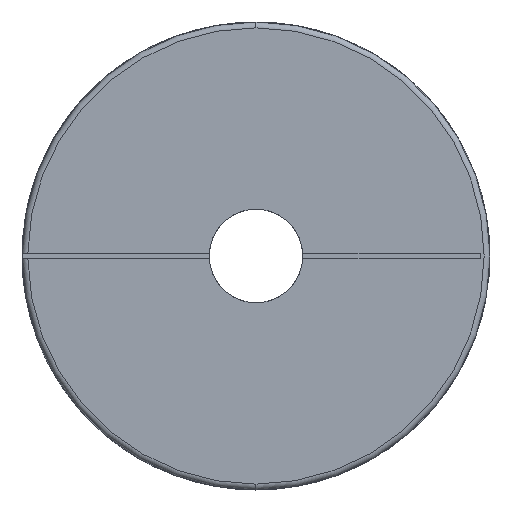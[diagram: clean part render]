
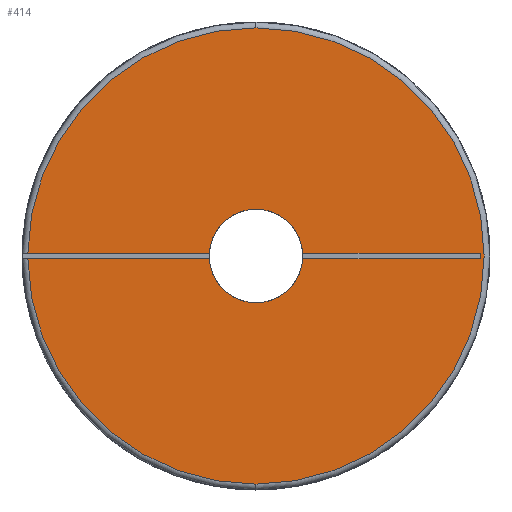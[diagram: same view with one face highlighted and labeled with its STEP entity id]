
A CAD part, left-side view. The second image highlights one B-rep face of the part: STEP entity #414.
In plain terms, the highlighted planar face has unit normal (-1, 0, 0).
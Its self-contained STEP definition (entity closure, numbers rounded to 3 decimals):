
#204 = EDGE_CURVE ( 'NONE', #260, #248, #920, .T. ) ;
#248 = VERTEX_POINT ( 'NONE', #956 ) ;
#260 = VERTEX_POINT ( 'NONE', #998 ) ;
#290 = ORIENTED_EDGE ( 'NONE', *, *, #293, .F. ) ;
#291 = VERTEX_POINT ( 'NONE', #1071 ) ;
#292 = EDGE_CURVE ( 'NONE', #291, #298, #1070, .T. ) ;
#293 = EDGE_CURVE ( 'NONE', #364, #291, #1066, .T. ) ;
#294 = ORIENTED_EDGE ( 'NONE', *, *, #363, .F. ) ;
#295 = ORIENTED_EDGE ( 'NONE', *, *, #448, .F. ) ;
#296 = ORIENTED_EDGE ( 'NONE', *, *, #292, .F. ) ;
#297 = EDGE_CURVE ( 'NONE', #298, #429, #1062, .T. ) ;
#298 = VERTEX_POINT ( 'NONE', #1058 ) ;
#361 = VERTEX_POINT ( 'NONE', #1120 ) ;
#363 = EDGE_CURVE ( 'NONE', #361, #364, #1119, .T. ) ;
#364 = VERTEX_POINT ( 'NONE', #1114 ) ;
#371 = ORIENTED_EDGE ( 'NONE', *, *, #373, .F. ) ;
#373 = EDGE_CURVE ( 'NONE', #421, #446, #1168, .T. ) ;
#414 = ADVANCED_FACE ( 'NONE', ( #1194 ), #1193, .F. ) ;
#415 = EDGE_LOOP ( 'NONE', ( #419, #422, #423, #424, #426, #427, #430, #296, #290, #294, #295, #371 ) ) ;
#419 = ORIENTED_EDGE ( 'NONE', *, *, #420, .T. ) ;
#420 = EDGE_CURVE ( 'NONE', #421, #3362, #1243, .T. ) ;
#421 = VERTEX_POINT ( 'NONE', #1239 ) ;
#422 = ORIENTED_EDGE ( 'NONE', *, *, #3365, .T. ) ;
#423 = ORIENTED_EDGE ( 'NONE', *, *, #2988, .T. ) ;
#424 = ORIENTED_EDGE ( 'NONE', *, *, #425, .F. ) ;
#425 = EDGE_CURVE ( 'NONE', #248, #2997, #1238, .T. ) ;
#426 = ORIENTED_EDGE ( 'NONE', *, *, #204, .F. ) ;
#427 = ORIENTED_EDGE ( 'NONE', *, *, #428, .F. ) ;
#428 = EDGE_CURVE ( 'NONE', #429, #260, #1233, .T. ) ;
#429 = VERTEX_POINT ( 'NONE', #1228 ) ;
#430 = ORIENTED_EDGE ( 'NONE', *, *, #297, .F. ) ;
#446 = VERTEX_POINT ( 'NONE', #1264 ) ;
#448 = EDGE_CURVE ( 'NONE', #446, #361, #1262, .T. ) ;
#916 = DIRECTION ( 'NONE',  ( 0., 0., 1. ) ) ;
#917 = DIRECTION ( 'NONE',  ( -1., 0., 0. ) ) ;
#918 = CARTESIAN_POINT ( 'NONE',  ( 0., 0., 0. ) ) ;
#919 = AXIS2_PLACEMENT_3D ( 'NONE', #918, #917, #916 ) ;
#920 = CIRCLE ( 'NONE', #919, 4. ) ;
#956 = CARTESIAN_POINT ( 'NONE',  ( 0., 3.992, 0.25 ) ) ;
#998 = CARTESIAN_POINT ( 'NONE',  ( 0., 0., 4. ) ) ;
#1058 = CARTESIAN_POINT ( 'NONE',  ( 0., -19.2, 0.25 ) ) ;
#1059 = DIRECTION ( 'NONE',  ( 0., 1., 0. ) ) ;
#1060 = VECTOR ( 'NONE', #1059, 1000. ) ;
#1061 = CARTESIAN_POINT ( 'NONE',  ( 0., 19.998, 0.25 ) ) ;
#1062 = LINE ( 'NONE', #1061, #1060 ) ;
#1063 = DIRECTION ( 'NONE',  ( 0., -1., 0. ) ) ;
#1064 = VECTOR ( 'NONE', #1063, 1000. ) ;
#1065 = CARTESIAN_POINT ( 'NONE',  ( 0., 19.998, -0.25 ) ) ;
#1066 = LINE ( 'NONE', #1065, #1064 ) ;
#1067 = DIRECTION ( 'NONE',  ( 0., 0., 1. ) ) ;
#1068 = VECTOR ( 'NONE', #1067, 1000. ) ;
#1069 = CARTESIAN_POINT ( 'NONE',  ( 0., -19.2, -0.25 ) ) ;
#1070 = LINE ( 'NONE', #1069, #1068 ) ;
#1071 = CARTESIAN_POINT ( 'NONE',  ( 0., -19.2, -0.25 ) ) ;
#1114 = CARTESIAN_POINT ( 'NONE',  ( 0., -3.992, -0.25 ) ) ;
#1115 = DIRECTION ( 'NONE',  ( 0., 0., 1. ) ) ;
#1116 = DIRECTION ( 'NONE',  ( -1., 0., 0. ) ) ;
#1117 = CARTESIAN_POINT ( 'NONE',  ( 0., 0., 0. ) ) ;
#1118 = AXIS2_PLACEMENT_3D ( 'NONE', #1117, #1116, #1115 ) ;
#1119 = CIRCLE ( 'NONE', #1118, 4. ) ;
#1120 = CARTESIAN_POINT ( 'NONE',  ( 0., 0., -4. ) ) ;
#1165 = DIRECTION ( 'NONE',  ( 0., -1., 0. ) ) ;
#1166 = VECTOR ( 'NONE', #1165, 1000. ) ;
#1167 = CARTESIAN_POINT ( 'NONE',  ( 0., 19.998, -0.25 ) ) ;
#1168 = LINE ( 'NONE', #1167, #1166 ) ;
#1183 = CARTESIAN_POINT ( 'NONE',  ( 0., 0., 0. ) ) ;
#1189 = DIRECTION ( 'NONE',  ( 0., 0., -1. ) ) ;
#1190 = DIRECTION ( 'NONE',  ( 1., 0., 0. ) ) ;
#1191 = CARTESIAN_POINT ( 'NONE',  ( 0., 0., 0. ) ) ;
#1192 = AXIS2_PLACEMENT_3D ( 'NONE', #1191, #1190, #1189 ) ;
#1193 = PLANE ( 'NONE',  #1192 ) ;
#1194 = FACE_OUTER_BOUND ( 'NONE', #415, .T. ) ;
#1228 = CARTESIAN_POINT ( 'NONE',  ( 0., -3.992, 0.25 ) ) ;
#1229 = DIRECTION ( 'NONE',  ( 0., 0., 1. ) ) ;
#1230 = DIRECTION ( 'NONE',  ( -1., 0., 0. ) ) ;
#1231 = CARTESIAN_POINT ( 'NONE',  ( 0., 0., 0. ) ) ;
#1232 = AXIS2_PLACEMENT_3D ( 'NONE', #1231, #1230, #1229 ) ;
#1233 = CIRCLE ( 'NONE', #1232, 4. ) ;
#1235 = DIRECTION ( 'NONE',  ( 0., 1., 0. ) ) ;
#1236 = VECTOR ( 'NONE', #1235, 1000. ) ;
#1237 = CARTESIAN_POINT ( 'NONE',  ( 0., 19.998, 0.25 ) ) ;
#1238 = LINE ( 'NONE', #1237, #1236 ) ;
#1239 = CARTESIAN_POINT ( 'NONE',  ( 0., 19.498, -0.25 ) ) ;
#1240 = DIRECTION ( 'NONE',  ( 0., 0., -1. ) ) ;
#1241 = DIRECTION ( 'NONE',  ( -1., 0., 0. ) ) ;
#1242 = AXIS2_PLACEMENT_3D ( 'NONE', #1183, #1241, #1240 ) ;
#1243 = CIRCLE ( 'NONE', #1242, 19.5 ) ;
#1258 = DIRECTION ( 'NONE',  ( 0., 0., 1. ) ) ;
#1259 = DIRECTION ( 'NONE',  ( -1., 0., 0. ) ) ;
#1260 = CARTESIAN_POINT ( 'NONE',  ( 0., 0., 0. ) ) ;
#1261 = AXIS2_PLACEMENT_3D ( 'NONE', #1260, #1259, #1258 ) ;
#1262 = CIRCLE ( 'NONE', #1261, 4. ) ;
#1264 = CARTESIAN_POINT ( 'NONE',  ( 0., 3.992, -0.25 ) ) ;
#1685 = CARTESIAN_POINT ( 'NONE',  ( 0., 19.498, 0.25 ) ) ;
#1697 = DIRECTION ( 'NONE',  ( 0., 0., -1. ) ) ;
#1698 = DIRECTION ( 'NONE',  ( -1., 0., 0. ) ) ;
#1699 = CARTESIAN_POINT ( 'NONE',  ( 0., 0., 0. ) ) ;
#1700 = AXIS2_PLACEMENT_3D ( 'NONE', #1699, #1698, #1697 ) ;
#1701 = CIRCLE ( 'NONE', #1700, 19.5 ) ;
#1707 = CARTESIAN_POINT ( 'NONE',  ( 0., 0., 19.5 ) ) ;
#2307 = CARTESIAN_POINT ( 'NONE',  ( 0., 0., 0. ) ) ;
#2308 = CARTESIAN_POINT ( 'NONE',  ( 0., 0., -19.5 ) ) ;
#2367 = DIRECTION ( 'NONE',  ( 0., 0., -1. ) ) ;
#2368 = DIRECTION ( 'NONE',  ( -1., 0., 0. ) ) ;
#2369 = AXIS2_PLACEMENT_3D ( 'NONE', #2307, #2368, #2367 ) ;
#2370 = CIRCLE ( 'NONE', #2369, 19.5 ) ;
#2986 = VERTEX_POINT ( 'NONE', #1707 ) ;
#2988 = EDGE_CURVE ( 'NONE', #2986, #2997, #1701, .T. ) ;
#2997 = VERTEX_POINT ( 'NONE', #1685 ) ;
#3362 = VERTEX_POINT ( 'NONE', #2308 ) ;
#3365 = EDGE_CURVE ( 'NONE', #3362, #2986, #2370, .T. ) ;
